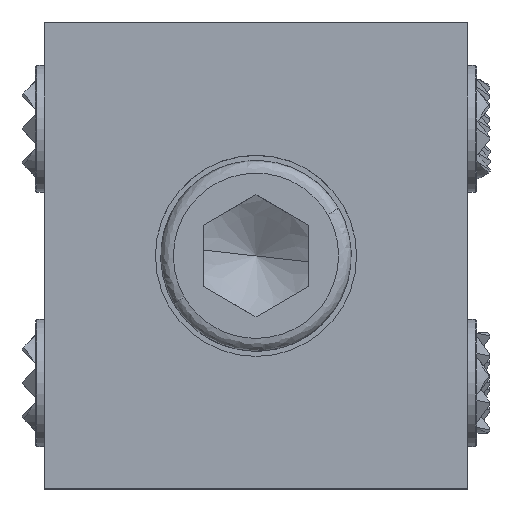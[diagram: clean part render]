
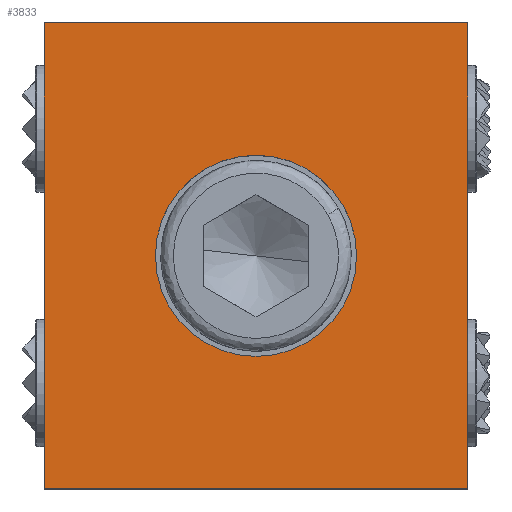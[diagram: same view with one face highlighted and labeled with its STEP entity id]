
A CAD part, top view. The second image highlights one B-rep face of the part: STEP entity #3833.
In plain terms, the highlighted planar face has unit normal (0, 0, 1).
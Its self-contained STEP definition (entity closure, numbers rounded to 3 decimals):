
#261 = EDGE_CURVE ( 'NONE', #6715, #5091, #6707, .T. ) ;
#272 = CARTESIAN_POINT ( 'NONE',  ( -20., 22., 21.4 ) ) ;
#461 = ORIENTED_EDGE ( 'NONE', *, *, #4292, .T. ) ;
#754 = LINE ( 'NONE', #7643, #5419 ) ;
#756 = AXIS2_PLACEMENT_3D ( 'NONE', #2993, #5505, #4189 ) ;
#764 = DIRECTION ( 'NONE',  ( 0., 0., 1. ) ) ;
#769 = AXIS2_PLACEMENT_3D ( 'NONE', #272, #764, #4077 ) ;
#823 = VERTEX_POINT ( 'NONE', #4966 ) ;
#877 = CIRCLE ( 'NONE', #5489, 9.5 ) ;
#893 = CARTESIAN_POINT ( 'NONE',  ( 0., 0., 21.4 ) ) ;
#1182 = CARTESIAN_POINT ( 'NONE',  ( 20., 22., 21.4 ) ) ;
#1255 = ORIENTED_EDGE ( 'NONE', *, *, #1611, .T. ) ;
#1330 = LINE ( 'NONE', #5747, #7466 ) ;
#1373 = DIRECTION ( 'NONE',  ( 0., 1., 0. ) ) ;
#1392 = EDGE_CURVE ( 'NONE', #823, #4276, #877, .T. ) ;
#1425 = PLANE ( 'NONE',  #769 ) ;
#1515 = ORIENTED_EDGE ( 'NONE', *, *, #5008, .T. ) ;
#1611 = EDGE_CURVE ( 'NONE', #4651, #6715, #1330, .T. ) ;
#2802 = VERTEX_POINT ( 'NONE', #1182 ) ;
#2993 = CARTESIAN_POINT ( 'NONE',  ( 0., 0., 21.4 ) ) ;
#3041 = EDGE_CURVE ( 'NONE', #4276, #823, #7874, .T. ) ;
#3221 = ORIENTED_EDGE ( 'NONE', *, *, #261, .T. ) ;
#3349 = EDGE_LOOP ( 'NONE', ( #5137, #5029 ) ) ;
#3495 = DIRECTION ( 'NONE',  ( -1., 0., 0. ) ) ;
#3833 = ADVANCED_FACE ( 'NONE', ( #6582, #5307 ), #1425, .T. ) ;
#4077 = DIRECTION ( 'NONE',  ( -1., 0., 0. ) ) ;
#4189 = DIRECTION ( 'NONE',  ( -1., 0., 0. ) ) ;
#4276 = VERTEX_POINT ( 'NONE', #5140 ) ;
#4292 = EDGE_CURVE ( 'NONE', #5091, #2802, #754, .T. ) ;
#4651 = VERTEX_POINT ( 'NONE', #5170 ) ;
#4966 = CARTESIAN_POINT ( 'NONE',  ( -9.5, 0., 21.4 ) ) ;
#5008 = EDGE_CURVE ( 'NONE', #2802, #4651, #7094, .T. ) ;
#5029 = ORIENTED_EDGE ( 'NONE', *, *, #3041, .T. ) ;
#5091 = VERTEX_POINT ( 'NONE', #6634 ) ;
#5137 = ORIENTED_EDGE ( 'NONE', *, *, #1392, .T. ) ;
#5140 = CARTESIAN_POINT ( 'NONE',  ( 9.5, 0., 21.4 ) ) ;
#5159 = CARTESIAN_POINT ( 'NONE',  ( -20., 22., 21.4 ) ) ;
#5170 = CARTESIAN_POINT ( 'NONE',  ( -20., 22., 21.4 ) ) ;
#5307 = FACE_BOUND ( 'NONE', #3349, .T. ) ;
#5419 = VECTOR ( 'NONE', #1373, 1000. ) ;
#5489 = AXIS2_PLACEMENT_3D ( 'NONE', #893, #7820, #3495 ) ;
#5505 = DIRECTION ( 'NONE',  ( 0., 0., -1. ) ) ;
#5512 = CARTESIAN_POINT ( 'NONE',  ( -20., -22., 21.4 ) ) ;
#5747 = CARTESIAN_POINT ( 'NONE',  ( -20., 22., 21.4 ) ) ;
#6088 = DIRECTION ( 'NONE',  ( 1., 0., 0. ) ) ;
#6511 = DIRECTION ( 'NONE',  ( -1., 0., 0. ) ) ;
#6582 = FACE_OUTER_BOUND ( 'NONE', #6785, .T. ) ;
#6634 = CARTESIAN_POINT ( 'NONE',  ( 20., -22., 21.4 ) ) ;
#6707 = LINE ( 'NONE', #5512, #7710 ) ;
#6715 = VERTEX_POINT ( 'NONE', #6792 ) ;
#6785 = EDGE_LOOP ( 'NONE', ( #461, #1515, #1255, #3221 ) ) ;
#6792 = CARTESIAN_POINT ( 'NONE',  ( -20., -22., 21.4 ) ) ;
#6866 = DIRECTION ( 'NONE',  ( 0., -1., 0. ) ) ;
#7094 = LINE ( 'NONE', #5159, #7922 ) ;
#7466 = VECTOR ( 'NONE', #6866, 1000. ) ;
#7643 = CARTESIAN_POINT ( 'NONE',  ( 20., 22., 21.4 ) ) ;
#7710 = VECTOR ( 'NONE', #6088, 1000. ) ;
#7820 = DIRECTION ( 'NONE',  ( 0., 0., -1. ) ) ;
#7874 = CIRCLE ( 'NONE', #756, 9.5 ) ;
#7922 = VECTOR ( 'NONE', #6511, 1000. ) ;
